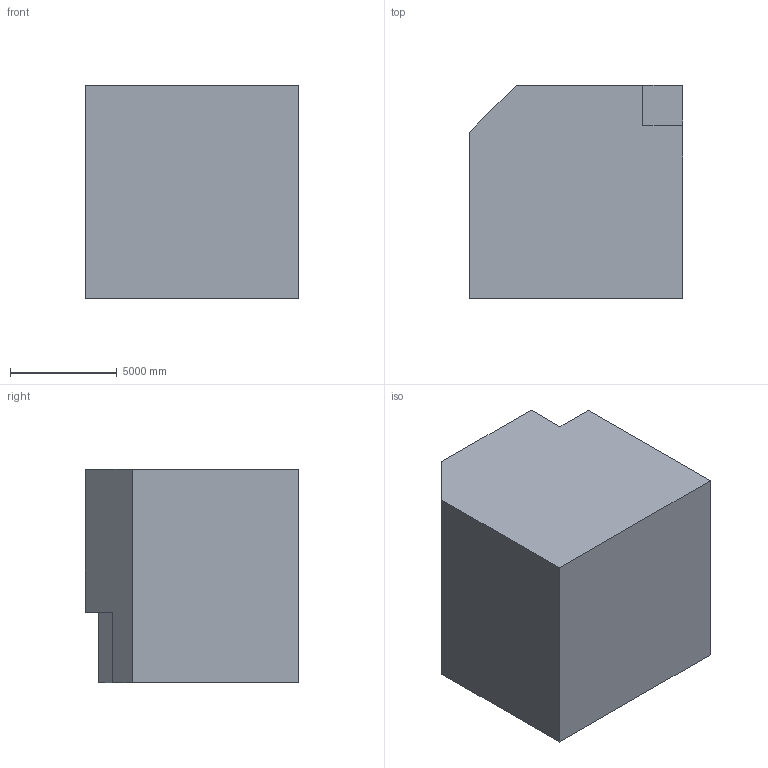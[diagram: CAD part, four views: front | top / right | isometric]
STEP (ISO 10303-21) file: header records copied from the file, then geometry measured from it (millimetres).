
FILE_DESCRIPTION (( 'STEP AP203' ), '1' );
FILE_NAME ('135.STEP', '2022-09-06T13:21:49', ( 'user' ), ( '' ), 'SwSTEP 2.0', 'SolidWorks 2021', '' );
FILE_SCHEMA (( 'CONFIG_CONTROL_DESIGN' ));
Length unit declared in the file: centimetre
Products named in the file (1): 135
Bounding box: 10000 x 10000 x 10000 mm (x, y, z)
Volume: 888630994647 mm3; surface area: 590548837.7 mm2
Topology: 1 solids, 1 shells, 16 faces, 42 edges, 28 vertices
Faces by surface type: plane 14, cylinder 2
Entity records: 567 total; most frequent: CARTESIAN_POINT 87, ORIENTED_EDGE 84, DIRECTION 80, EDGE_CURVE 42, LINE 38, VECTOR 38, VERTEX_POINT 28, AXIS2_PLACEMENT_3D 21
